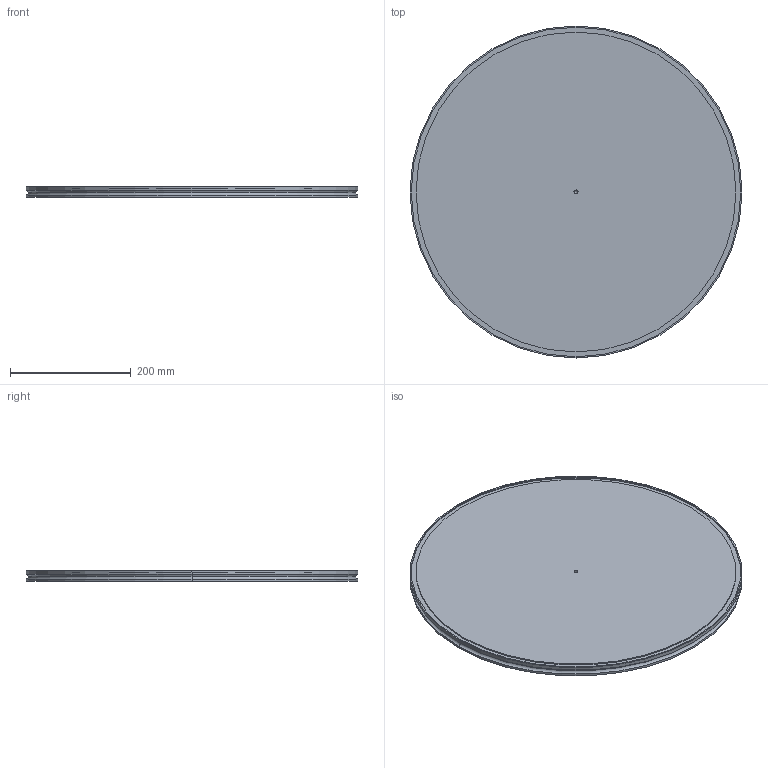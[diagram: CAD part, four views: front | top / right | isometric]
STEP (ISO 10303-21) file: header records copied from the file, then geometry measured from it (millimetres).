
FILE_DESCRIPTION((''),'2;1');
FILE_NAME('W:\212-018.stp','2004-01-07T13:38:44',('KAA'),(''),'Autodesk Inventor (R) 6.0','Autodesk Inventor (R) 6.0','');
FILE_SCHEMA(('CONFIG_CONTROL_DESIGN'));
Length unit declared in the file: millimetre
Products named in the file (1): 212-018
Bounding box: 550 x 550 x 17 mm (x, y, z)
Volume: 3917627.1 mm3; surface area: 539502.9 mm2
Topology: 1 solids, 1 shells, 26 faces, 52 edges, 31 vertices
Faces by surface type: cylinder 12, plane 6, torus 4, bspline 4
Entity records: 819 total; most frequent: CARTESIAN_POINT 176, DIRECTION 130, ORIENTED_EDGE 100, AXIS2_PLACEMENT_3D 57, EDGE_CURVE 50, CIRCLE 34, VERTEX_POINT 31, EDGE_LOOP 31
